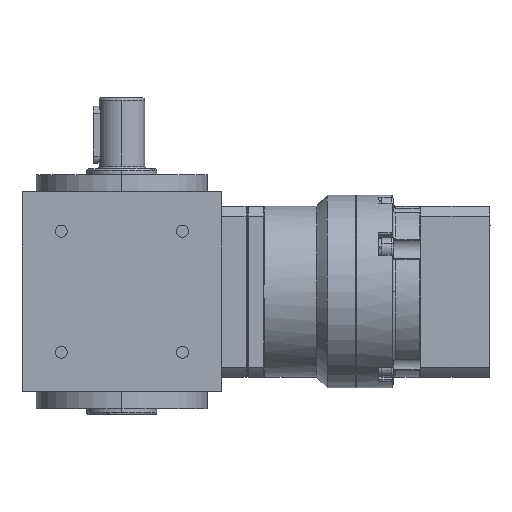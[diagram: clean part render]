
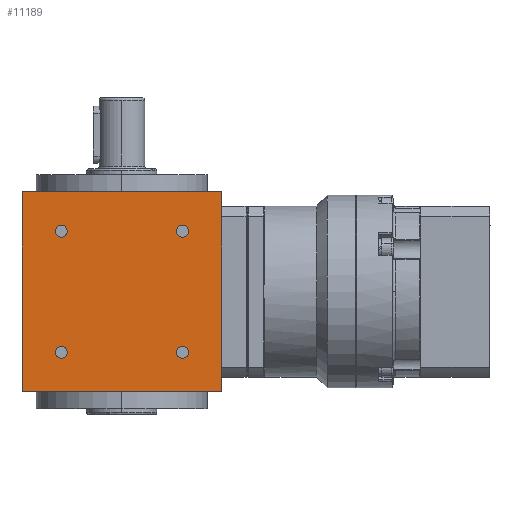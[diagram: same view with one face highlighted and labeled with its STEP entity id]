
A CAD part, left-side view. The second image highlights one B-rep face of the part: STEP entity #11189.
In plain terms, the highlighted planar face has unit normal (-1, 0, 0).
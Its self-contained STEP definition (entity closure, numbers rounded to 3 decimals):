
#57 = CARTESIAN_POINT ( 'NONE',  ( -35., -35., 35. ) ) ;
#413 = AXIS2_PLACEMENT_3D ( 'NONE', #1514, #1032, #28401 ) ;
#437 = CIRCLE ( 'NONE', #413, 2.1 ) ;
#1032 = DIRECTION ( 'NONE',  ( 1., 0., 0. ) ) ;
#1514 = CARTESIAN_POINT ( 'NONE',  ( -35., 21.213, -21.213 ) ) ;
#1570 = ORIENTED_EDGE ( 'NONE', *, *, #6472, .T. ) ;
#2493 = EDGE_CURVE ( 'NONE', #4929, #15871, #20330, .T. ) ;
#2590 = CIRCLE ( 'NONE', #22789, 2.1 ) ;
#2728 = LINE ( 'NONE', #22490, #14155 ) ;
#2747 = LINE ( 'NONE', #22194, #15584 ) ;
#2794 = CARTESIAN_POINT ( 'NONE',  ( -35., -21.213, 21.213 ) ) ;
#2862 = EDGE_CURVE ( 'NONE', #9585, #22005, #14634, .T. ) ;
#2866 = CARTESIAN_POINT ( 'NONE',  ( -35., -21.213, -21.213 ) ) ;
#3822 = ORIENTED_EDGE ( 'NONE', *, *, #31387, .F. ) ;
#3895 = EDGE_LOOP ( 'NONE', ( #20810, #31539 ) ) ;
#3916 = AXIS2_PLACEMENT_3D ( 'NONE', #16944, #11749, #3988 ) ;
#3988 = DIRECTION ( 'NONE',  ( 0., -1., 0. ) ) ;
#4152 = VERTEX_POINT ( 'NONE', #24373 ) ;
#4155 = ORIENTED_EDGE ( 'NONE', *, *, #21339, .T. ) ;
#4201 = FACE_BOUND ( 'NONE', #22323, .T. ) ;
#4929 = VERTEX_POINT ( 'NONE', #18212 ) ;
#4933 = EDGE_LOOP ( 'NONE', ( #3822, #9262, #26854, #7450 ) ) ;
#4956 = CARTESIAN_POINT ( 'NONE',  ( -35., -19.113, -21.213 ) ) ;
#5130 = DIRECTION ( 'NONE',  ( 1., 0., 0. ) ) ;
#5775 = DIRECTION ( 'NONE',  ( 0., -1., 0. ) ) ;
#6472 = EDGE_CURVE ( 'NONE', #22718, #7396, #6573, .T. ) ;
#6573 = CIRCLE ( 'NONE', #24678, 2.1 ) ;
#6798 = CARTESIAN_POINT ( 'NONE',  ( -35., 35., -35. ) ) ;
#7114 = DIRECTION ( 'NONE',  ( -1., 0., 0. ) ) ;
#7271 = DIRECTION ( 'NONE',  ( 0., 0., 1. ) ) ;
#7274 = DIRECTION ( 'NONE',  ( 0., 0., -1. ) ) ;
#7396 = VERTEX_POINT ( 'NONE', #4956 ) ;
#7450 = ORIENTED_EDGE ( 'NONE', *, *, #15811, .T. ) ;
#8256 = CARTESIAN_POINT ( 'NONE',  ( -35., 23.313, -21.213 ) ) ;
#8590 = DIRECTION ( 'NONE',  ( 1., 0., 0. ) ) ;
#8791 = VERTEX_POINT ( 'NONE', #21841 ) ;
#9262 = ORIENTED_EDGE ( 'NONE', *, *, #13534, .F. ) ;
#9381 = FACE_OUTER_BOUND ( 'NONE', #4933, .T. ) ;
#9585 = VERTEX_POINT ( 'NONE', #17023 ) ;
#9742 = VECTOR ( 'NONE', #5775, 1000. ) ;
#10840 = CARTESIAN_POINT ( 'NONE',  ( -35., 23.313, 21.213 ) ) ;
#11102 = ORIENTED_EDGE ( 'NONE', *, *, #19713, .T. ) ;
#11189 = ADVANCED_FACE ( 'NONE', ( #4201, #24292, #19120, #28988, #9381 ), #14712, .T. ) ;
#11749 = DIRECTION ( 'NONE',  ( 1., 0., 0. ) ) ;
#12475 = CARTESIAN_POINT ( 'NONE',  ( -35., 35., -35. ) ) ;
#13062 = AXIS2_PLACEMENT_3D ( 'NONE', #20898, #8590, #28341 ) ;
#13514 = CARTESIAN_POINT ( 'NONE',  ( -35., -19.113, 21.213 ) ) ;
#13534 = EDGE_CURVE ( 'NONE', #4152, #26126, #18101, .T. ) ;
#13673 = AXIS2_PLACEMENT_3D ( 'NONE', #2866, #5130, #19572 ) ;
#14155 = VECTOR ( 'NONE', #7274, 1000. ) ;
#14634 = CIRCLE ( 'NONE', #19311, 2.1 ) ;
#14704 = CARTESIAN_POINT ( 'NONE',  ( -35., 21.213, 21.213 ) ) ;
#14712 = PLANE ( 'NONE',  #15375 ) ;
#15107 = DIRECTION ( 'NONE',  ( 1., 0., 0. ) ) ;
#15109 = DIRECTION ( 'NONE',  ( 1., 0., 0. ) ) ;
#15375 = AXIS2_PLACEMENT_3D ( 'NONE', #6798, #7114, #7271 ) ;
#15415 = CARTESIAN_POINT ( 'NONE',  ( -35., -35., -35. ) ) ;
#15434 = CARTESIAN_POINT ( 'NONE',  ( -35., -21.213, 21.213 ) ) ;
#15584 = VECTOR ( 'NONE', #32051, 1000. ) ;
#15811 = EDGE_CURVE ( 'NONE', #8791, #16576, #2747, .T. ) ;
#15871 = VERTEX_POINT ( 'NONE', #10840 ) ;
#16161 = CIRCLE ( 'NONE', #13062, 2.1 ) ;
#16576 = VERTEX_POINT ( 'NONE', #15415 ) ;
#16944 = CARTESIAN_POINT ( 'NONE',  ( -35., 21.213, -21.213 ) ) ;
#17023 = CARTESIAN_POINT ( 'NONE',  ( -35., -23.313, 21.213 ) ) ;
#17450 = EDGE_LOOP ( 'NONE', ( #25612, #30450 ) ) ;
#17614 = VERTEX_POINT ( 'NONE', #29517 ) ;
#17742 = AXIS2_PLACEMENT_3D ( 'NONE', #14704, #21372, #28981 ) ;
#17897 = CIRCLE ( 'NONE', #3916, 2.1 ) ;
#18101 = LINE ( 'NONE', #27959, #9742 ) ;
#18212 = CARTESIAN_POINT ( 'NONE',  ( -35., 19.113, 21.213 ) ) ;
#19120 = FACE_BOUND ( 'NONE', #19926, .T. ) ;
#19311 = AXIS2_PLACEMENT_3D ( 'NONE', #15434, #15109, #24984 ) ;
#19572 = DIRECTION ( 'NONE',  ( 0., -1., 0. ) ) ;
#19713 = EDGE_CURVE ( 'NONE', #15871, #4929, #16161, .T. ) ;
#19926 = EDGE_LOOP ( 'NONE', ( #1570, #4155 ) ) ;
#20330 = CIRCLE ( 'NONE', #17742, 2.1 ) ;
#20810 = ORIENTED_EDGE ( 'NONE', *, *, #2862, .T. ) ;
#20898 = CARTESIAN_POINT ( 'NONE',  ( -35., 21.213, 21.213 ) ) ;
#21339 = EDGE_CURVE ( 'NONE', #7396, #22718, #29187, .T. ) ;
#21372 = DIRECTION ( 'NONE',  ( 1., 0., 0. ) ) ;
#21629 = VECTOR ( 'NONE', #24805, 1000. ) ;
#21841 = CARTESIAN_POINT ( 'NONE',  ( -35., 35., -35. ) ) ;
#22005 = VERTEX_POINT ( 'NONE', #13514 ) ;
#22194 = CARTESIAN_POINT ( 'NONE',  ( -35., 0., -35. ) ) ;
#22323 = EDGE_LOOP ( 'NONE', ( #23413, #11102 ) ) ;
#22490 = CARTESIAN_POINT ( 'NONE',  ( -35., -35., -35. ) ) ;
#22718 = VERTEX_POINT ( 'NONE', #25875 ) ;
#22789 = AXIS2_PLACEMENT_3D ( 'NONE', #2794, #15107, #27393 ) ;
#22820 = EDGE_CURVE ( 'NONE', #17614, #25467, #17897, .T. ) ;
#23413 = ORIENTED_EDGE ( 'NONE', *, *, #2493, .T. ) ;
#24292 = FACE_BOUND ( 'NONE', #3895, .T. ) ;
#24373 = CARTESIAN_POINT ( 'NONE',  ( -35., 35., 35. ) ) ;
#24493 = LINE ( 'NONE', #12475, #21629 ) ;
#24678 = AXIS2_PLACEMENT_3D ( 'NONE', #29340, #29034, #26744 ) ;
#24805 = DIRECTION ( 'NONE',  ( 0., 0., 1. ) ) ;
#24882 = EDGE_CURVE ( 'NONE', #8791, #4152, #24493, .T. ) ;
#24984 = DIRECTION ( 'NONE',  ( 0., -1., 0. ) ) ;
#25467 = VERTEX_POINT ( 'NONE', #8256 ) ;
#25612 = ORIENTED_EDGE ( 'NONE', *, *, #22820, .T. ) ;
#25875 = CARTESIAN_POINT ( 'NONE',  ( -35., -23.313, -21.213 ) ) ;
#26126 = VERTEX_POINT ( 'NONE', #57 ) ;
#26427 = EDGE_CURVE ( 'NONE', #25467, #17614, #437, .T. ) ;
#26744 = DIRECTION ( 'NONE',  ( 0., -1., 0. ) ) ;
#26854 = ORIENTED_EDGE ( 'NONE', *, *, #24882, .F. ) ;
#27393 = DIRECTION ( 'NONE',  ( 0., -1., 0. ) ) ;
#27959 = CARTESIAN_POINT ( 'NONE',  ( -35., 0., 35. ) ) ;
#28007 = EDGE_CURVE ( 'NONE', #22005, #9585, #2590, .T. ) ;
#28341 = DIRECTION ( 'NONE',  ( 0., -1., 0. ) ) ;
#28401 = DIRECTION ( 'NONE',  ( 0., -1., 0. ) ) ;
#28981 = DIRECTION ( 'NONE',  ( 0., -1., 0. ) ) ;
#28988 = FACE_BOUND ( 'NONE', #17450, .T. ) ;
#29034 = DIRECTION ( 'NONE',  ( 1., 0., 0. ) ) ;
#29187 = CIRCLE ( 'NONE', #13673, 2.1 ) ;
#29340 = CARTESIAN_POINT ( 'NONE',  ( -35., -21.213, -21.213 ) ) ;
#29517 = CARTESIAN_POINT ( 'NONE',  ( -35., 19.113, -21.213 ) ) ;
#30450 = ORIENTED_EDGE ( 'NONE', *, *, #26427, .T. ) ;
#31387 = EDGE_CURVE ( 'NONE', #26126, #16576, #2728, .T. ) ;
#31539 = ORIENTED_EDGE ( 'NONE', *, *, #28007, .T. ) ;
#32051 = DIRECTION ( 'NONE',  ( 0., -1., 0. ) ) ;
